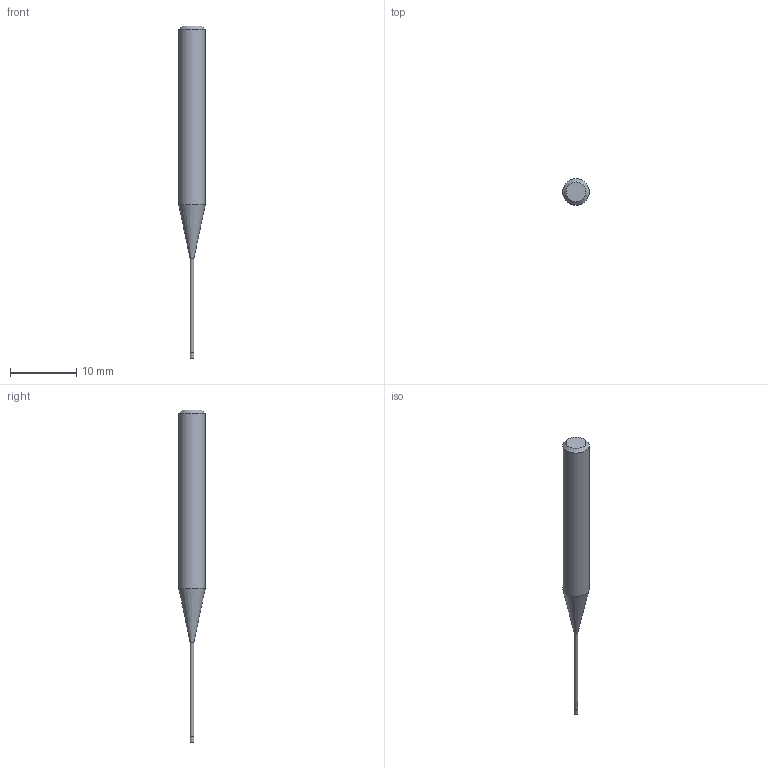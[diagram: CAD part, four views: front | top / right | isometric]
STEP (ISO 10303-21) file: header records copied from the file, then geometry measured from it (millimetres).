
FILE_DESCRIPTION((''),'2;1');
FILE_NAME('C:\Users\nsx150\AppData\Local\Temp\Mastercam 2021\17T8Q8S9EB\TEMP.step','2021-04-21T14:25:00',(''),(''),'STEP Write','Mastercam 2021 ... CNC Software, Inc.','');
FILE_SCHEMA(('AUTOMOTIVE_DESIGN'));
Length unit declared in the file: millimetre
Products named in the file (1): None
Bounding box: 4 x 4 x 50 mm (x, y, z)
Volume: 379.7 mm3; surface area: 433.3 mm2
Topology: 2 solids, 2 shells, 9 faces, 12 edges, 7 vertices
Faces by surface type: plane 4, cylinder 3, cone 2
Full cylindrical faces by diameter (mm): 0.56 x1, 0.6 x1, 4 x1
Entity records: 211 total; most frequent: DIRECTION 36, CARTESIAN_POINT 25, AXIS2_PLACEMENT_3D 18, ORIENTED_EDGE 14, EDGE_LOOP 14, STYLED_ITEM 12, ADVANCED_FACE 9, FACE_BOUND 8
